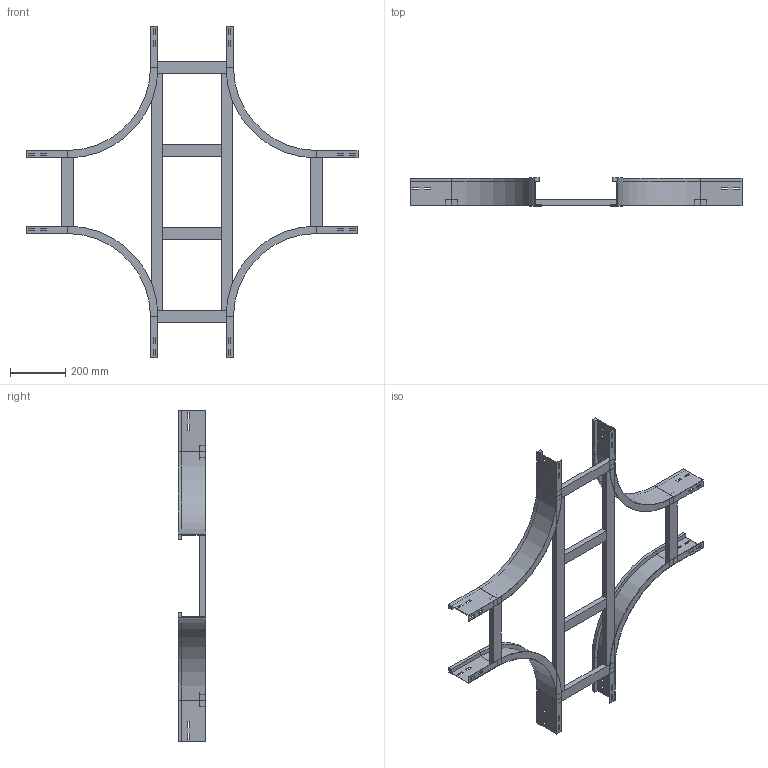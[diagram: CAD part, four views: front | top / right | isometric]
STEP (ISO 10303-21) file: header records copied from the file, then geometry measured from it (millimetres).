
FILE_DESCRIPTION (( 'STEP AP214' ), '1' );
FILE_NAME ('A2_17B3D300.step', '2025-02-21T15:54:59', ( '' ), ( '' ), 'SwSTEP 2.0', 'SolidWorks 2023', '' );
FILE_SCHEMA (( 'AUTOMOTIVE_DESIGN' ));
Length unit declared in the file: millimetre
Products named in the file (5): TRAVERSINO_INTERMEDIO_R300+300; A2_LONGH.INTERNO 90°_H100_R300; A2_17B3D300; A2_TRAVERSINO_LONG._R300+300; TRAVERSINO_300
Assembly tree (12 placements, depth 2):
  A2_17B3D300
    A2_LONGH.INTERNO 90°_H100_R300  x4
    TRAVERSINO_300  x4
    A2_TRAVERSINO_LONG._R300+300  x2
    TRAVERSINO_INTERMEDIO_R300+300  x2
Bounding box: 1200 x 100 x 1200 mm (x, y, z)
Volume: 4071300 mm3; surface area: 1305310.5 mm2
Topology: 12 solids, 12 shells, 280 faces, 704 edges, 448 vertices
Faces by surface type: plane 264, cylinder 16
Entity records: 2442 total; most frequent: CARTESIAN_POINT 399, DIRECTION 378, ORIENTED_EDGE 376, EDGE_CURVE 188, VECTOR 180, LINE 180, VERTEX_POINT 120, AXIS2_PLACEMENT_3D 99
